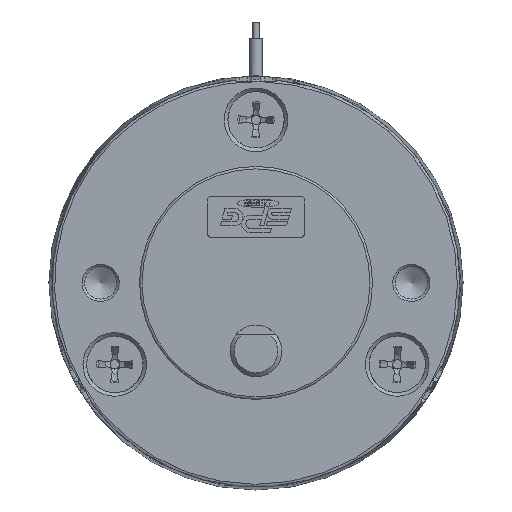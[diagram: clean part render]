
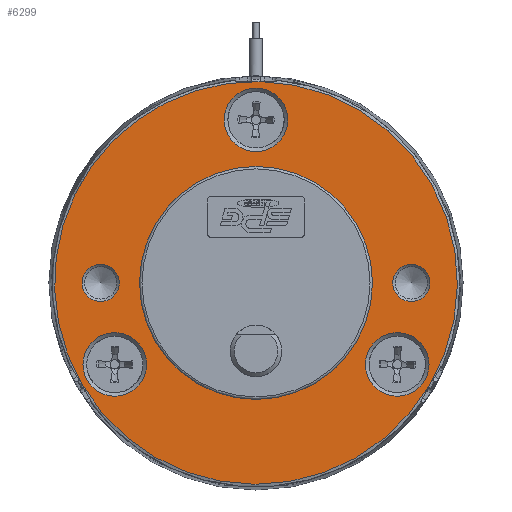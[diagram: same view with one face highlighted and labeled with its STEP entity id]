
A CAD part, front view. The second image highlights one B-rep face of the part: STEP entity #6299.
In plain terms, the highlighted planar face has unit normal (0, -1, 0).
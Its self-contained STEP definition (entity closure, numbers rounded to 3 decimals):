
#594=CARTESIAN_POINT('',(-1.149,19.05,34.27));
#595=VERTEX_POINT('',#594);
#596=CARTESIAN_POINT('',(-1.149,19.05,30.37));
#597=DIRECTION('',(0.0,1.0,0.0));
#598=DIRECTION('',(0.0,0.0,1.0));
#599=AXIS2_PLACEMENT_3D('',#596,#597,#598);
#600=CIRCLE('',#599,3.9);
#601=EDGE_CURVE('',#595,#595,#600,.T.);
#659=CARTESIAN_POINT('',(-21.847,19.05,-1.58));
#660=VERTEX_POINT('',#659);
#661=CARTESIAN_POINT('',(-18.469,19.05,0.37));
#662=DIRECTION('',(0.0,1.0,0.0));
#663=DIRECTION('',(-0.866,0.0,-0.5));
#664=AXIS2_PLACEMENT_3D('',#661,#662,#663);
#665=CIRCLE('',#664,3.9);
#666=EDGE_CURVE('',#660,#660,#665,.T.);
#724=CARTESIAN_POINT('',(19.549,19.05,-1.58));
#725=VERTEX_POINT('',#724);
#726=CARTESIAN_POINT('',(16.172,19.05,0.37));
#727=DIRECTION('',(0.0,1.0,0.0));
#728=DIRECTION('',(0.866,0.0,-0.5));
#729=AXIS2_PLACEMENT_3D('',#726,#727,#728);
#730=CIRCLE('',#729,3.9);
#731=EDGE_CURVE('',#725,#725,#730,.T.);
#5340=CARTESIAN_POINT('',(-22.543,19.05,-1.982));
#5341=VERTEX_POINT('',#5340);
#5342=CARTESIAN_POINT('',(-1.149,19.05,10.37));
#5343=DIRECTION('',(0.0,1.0,0.0));
#5344=DIRECTION('',(0.866,0.0,0.5));
#5345=AXIS2_PLACEMENT_3D('',#5342,#5343,#5344);
#5346=CIRCLE('',#5345,24.704);
#5347=EDGE_CURVE('',#5341,#5341,#5346,.T.);
#6132=CARTESIAN_POINT('',(13.139,19.05,10.37));
#6133=VERTEX_POINT('',#6132);
#6134=CARTESIAN_POINT('',(-1.149,19.05,10.37));
#6135=DIRECTION('',(0.0,1.0,0.0));
#6136=DIRECTION('',(-1.0,0.0,0.0));
#6137=AXIS2_PLACEMENT_3D('',#6134,#6135,#6136);
#6138=CIRCLE('',#6137,14.287);
#6139=EDGE_CURVE('',#6133,#6133,#6138,.T.);
#6233=CARTESIAN_POINT('',(20.182,19.05,10.37));
#6234=VERTEX_POINT('',#6233);
#6235=CARTESIAN_POINT('',(17.901,19.05,10.37));
#6236=DIRECTION('',(0.0,-1.0,0.0));
#6237=DIRECTION('',(-1.0,0.0,0.0));
#6238=AXIS2_PLACEMENT_3D('',#6235,#6236,#6237);
#6239=CIRCLE('',#6238,2.281);
#6240=EDGE_CURVE('',#6234,#6234,#6239,.T.);
#6265=CARTESIAN_POINT('',(-1.149,19.05,10.37));
#6266=DIRECTION('',(0.0,1.0,0.0));
#6267=DIRECTION('',(0.0,0.0,1.0));
#6268=AXIS2_PLACEMENT_3D('',#6265,#6266,#6267);
#6269=PLANE('',#6268);
#6270=ORIENTED_EDGE('',*,*,#5347,.F.);
#6271=EDGE_LOOP('',(#6270));
#6272=FACE_OUTER_BOUND('',#6271,.T.);
#6273=ORIENTED_EDGE('',*,*,#6240,.F.);
#6274=EDGE_LOOP('',(#6273));
#6275=FACE_BOUND('',#6274,.T.);
#6276=ORIENTED_EDGE('',*,*,#6139,.T.);
#6277=EDGE_LOOP('',(#6276));
#6278=FACE_BOUND('',#6277,.T.);
#6279=ORIENTED_EDGE('',*,*,#601,.T.);
#6280=EDGE_LOOP('',(#6279));
#6281=FACE_BOUND('',#6280,.T.);
#6282=ORIENTED_EDGE('',*,*,#666,.T.);
#6283=EDGE_LOOP('',(#6282));
#6284=FACE_BOUND('',#6283,.T.);
#6285=ORIENTED_EDGE('',*,*,#731,.T.);
#6286=EDGE_LOOP('',(#6285));
#6287=FACE_BOUND('',#6286,.T.);
#6288=CARTESIAN_POINT('',(-17.918,19.05,10.37));
#6289=VERTEX_POINT('',#6288);
#6290=CARTESIAN_POINT('',(-20.199,19.05,10.37));
#6291=DIRECTION('',(0.0,-1.0,0.0));
#6292=DIRECTION('',(-1.0,0.0,0.0));
#6293=AXIS2_PLACEMENT_3D('',#6290,#6291,#6292);
#6294=CIRCLE('',#6293,2.281);
#6295=EDGE_CURVE('',#6289,#6289,#6294,.T.);
#6296=ORIENTED_EDGE('',*,*,#6295,.F.);
#6297=EDGE_LOOP('',(#6296));
#6298=FACE_BOUND('',#6297,.T.);
#6299=ADVANCED_FACE('',(#6272,#6275,#6278,#6281,#6284,#6287,#6298),#6269,.F.);
